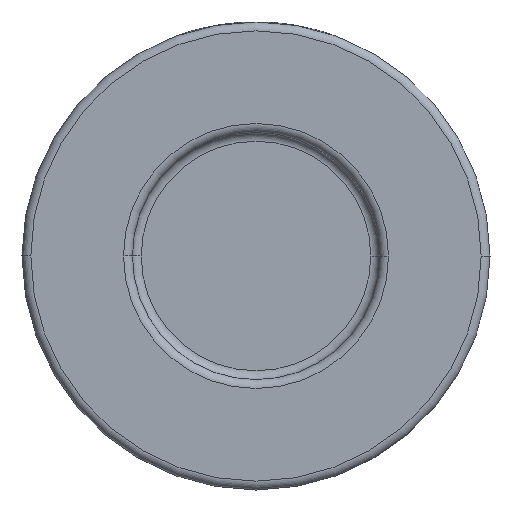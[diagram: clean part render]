
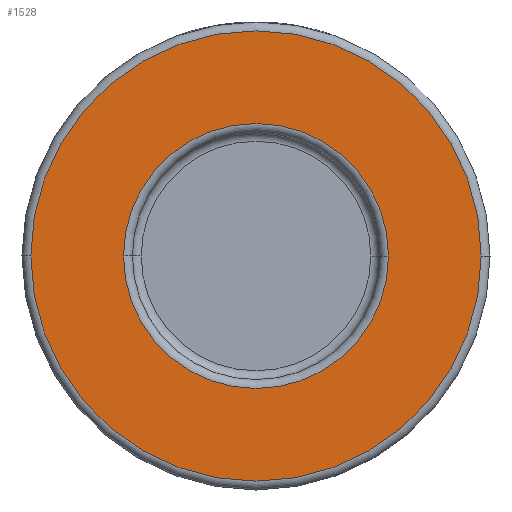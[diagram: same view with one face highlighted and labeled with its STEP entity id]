
A CAD part, front view. The second image highlights one B-rep face of the part: STEP entity #1528.
In plain terms, the highlighted planar face has unit normal (0, -1, 0).
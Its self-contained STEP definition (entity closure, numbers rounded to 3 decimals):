
#1 = CARTESIAN_POINT ( 'NONE',  ( -25.5, -16., 0. ) ) ;
#25 = DIRECTION ( 'NONE',  ( 1., 0., 0. ) ) ;
#199 = AXIS2_PLACEMENT_3D ( 'NONE', #3304, #4374, #901 ) ;
#265 = EDGE_LOOP ( 'NONE', ( #1992, #579 ) ) ;
#579 = ORIENTED_EDGE ( 'NONE', *, *, #2393, .T. ) ;
#632 = VERTEX_POINT ( 'NONE', #1 ) ;
#832 = CIRCLE ( 'NONE', #3420, 15. ) ;
#865 = DIRECTION ( 'NONE',  ( 0., -1., 0. ) ) ;
#901 = DIRECTION ( 'NONE',  ( 1., 0., 0. ) ) ;
#926 = ORIENTED_EDGE ( 'NONE', *, *, #1280, .T. ) ;
#967 = DIRECTION ( 'NONE',  ( 0., 1., 0. ) ) ;
#988 = CIRCLE ( 'NONE', #199, 15. ) ;
#1063 = AXIS2_PLACEMENT_3D ( 'NONE', #3696, #1321, #3626 ) ;
#1103 = VERTEX_POINT ( 'NONE', #4253 ) ;
#1235 = PLANE ( 'NONE',  #1063 ) ;
#1280 = EDGE_CURVE ( 'NONE', #632, #1103, #4049, .T. ) ;
#1315 = VERTEX_POINT ( 'NONE', #2559 ) ;
#1321 = DIRECTION ( 'NONE',  ( 0., -1., 0. ) ) ;
#1377 = CARTESIAN_POINT ( 'NONE',  ( 0., -16., 0. ) ) ;
#1384 = VERTEX_POINT ( 'NONE', #4222 ) ;
#1421 = DIRECTION ( 'NONE',  ( 0., -1., 0. ) ) ;
#1528 = ADVANCED_FACE ( 'NONE', ( #1614, #1639 ), #1235, .T. ) ;
#1591 = DIRECTION ( 'NONE',  ( 1., 0., 0. ) ) ;
#1614 = FACE_BOUND ( 'NONE', #265, .T. ) ;
#1639 = FACE_OUTER_BOUND ( 'NONE', #1719, .T. ) ;
#1719 = EDGE_LOOP ( 'NONE', ( #3928, #926 ) ) ;
#1992 = ORIENTED_EDGE ( 'NONE', *, *, #2600, .T. ) ;
#2393 = EDGE_CURVE ( 'NONE', #1315, #1384, #988, .T. ) ;
#2559 = CARTESIAN_POINT ( 'NONE',  ( -15., -16., 0. ) ) ;
#2600 = EDGE_CURVE ( 'NONE', #1384, #1315, #832, .T. ) ;
#2853 = CIRCLE ( 'NONE', #3915, 25.5 ) ;
#3304 = CARTESIAN_POINT ( 'NONE',  ( 0., -16., 0. ) ) ;
#3420 = AXIS2_PLACEMENT_3D ( 'NONE', #1377, #967, #3703 ) ;
#3482 = AXIS2_PLACEMENT_3D ( 'NONE', #4164, #1421, #25 ) ;
#3626 = DIRECTION ( 'NONE',  ( 1., 0., 0. ) ) ;
#3695 = EDGE_CURVE ( 'NONE', #1103, #632, #2853, .T. ) ;
#3696 = CARTESIAN_POINT ( 'NONE',  ( 26.5, -16., 0. ) ) ;
#3703 = DIRECTION ( 'NONE',  ( 1., 0., 0. ) ) ;
#3915 = AXIS2_PLACEMENT_3D ( 'NONE', #3933, #865, #1591 ) ;
#3928 = ORIENTED_EDGE ( 'NONE', *, *, #3695, .T. ) ;
#3933 = CARTESIAN_POINT ( 'NONE',  ( 0., -16., 0. ) ) ;
#4049 = CIRCLE ( 'NONE', #3482, 25.5 ) ;
#4164 = CARTESIAN_POINT ( 'NONE',  ( 0., -16., 0. ) ) ;
#4222 = CARTESIAN_POINT ( 'NONE',  ( 15., -16., 0. ) ) ;
#4253 = CARTESIAN_POINT ( 'NONE',  ( 25.5, -16., 0. ) ) ;
#4374 = DIRECTION ( 'NONE',  ( 0., 1., 0. ) ) ;
